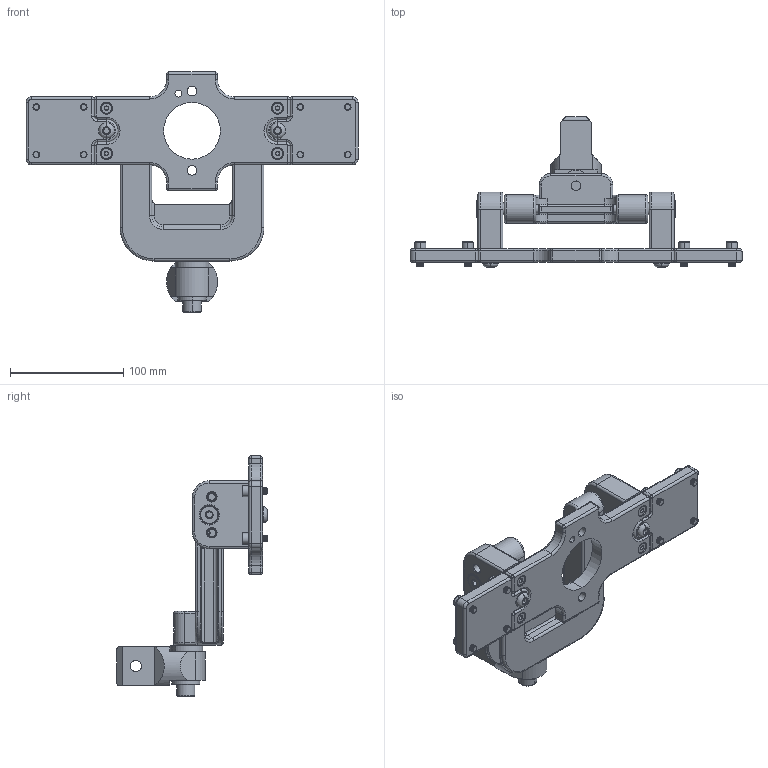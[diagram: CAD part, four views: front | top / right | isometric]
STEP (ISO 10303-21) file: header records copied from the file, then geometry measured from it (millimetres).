
FILE_DESCRIPTION((''),'2;1');
FILE_NAME('6158125420','2016-06-02T',('greextsd'),(''),'CREO PARAMETRIC BY PTC INC, 2016050','CREO PARAMETRIC BY PTC INC, 2016050','');
FILE_SCHEMA(('CONFIG_CONTROL_DESIGN'));
Products named in the file (1): 6158125420
Bounding box: 293 x 133.05 x 212 mm (x, y, z)
Volume: 646163.3 mm3; surface area: 135468 mm2
Topology: 1 solids, 1 shells, 2579 faces, 6997 edges, 4433 vertices
Faces by surface type: plane 1569, cylinder 490, cone 384, torus 96, sphere 24, bspline 16
Entity records: 86437 total; most frequent: CARTESIAN_POINT 23288, ORIENTED_EDGE 13902, DIRECTION 12267, EDGE_CURVE 6951, VERTEX_POINT 4433, AXIS2_PLACEMENT_3D 4162, VECTOR 3943, LINE 3943
